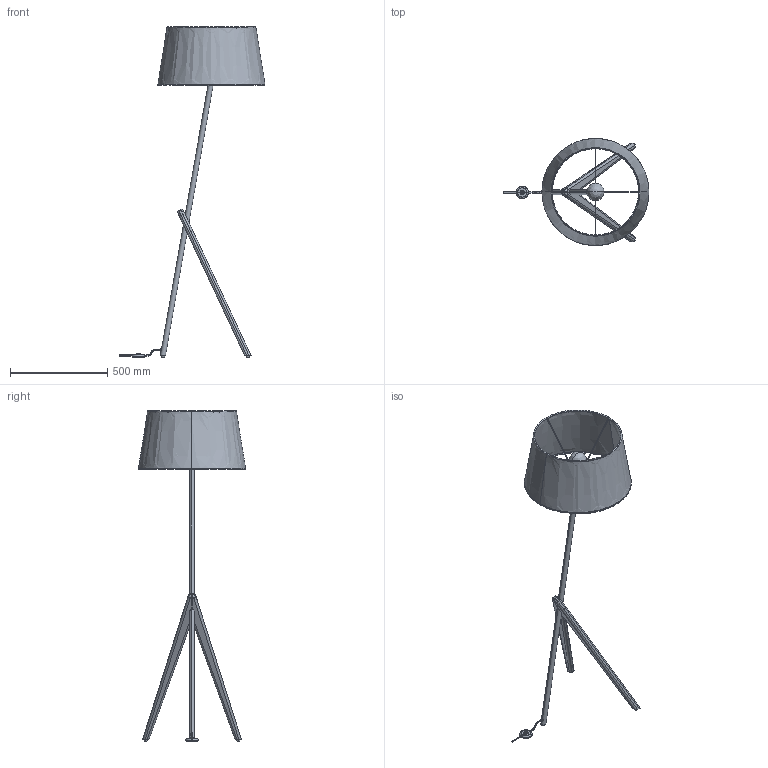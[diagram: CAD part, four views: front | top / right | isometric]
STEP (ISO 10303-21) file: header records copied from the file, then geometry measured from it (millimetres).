
FILE_DESCRIPTION(/* description */ (''),/* implementation_level */ '2;1');
FILE_NAME(/* name */ '20056.step',/* time_stamp */ '2024-06-14T08:41:54+02:00',/* author */ ('RenataManzini'),/* organization */ (''),/* preprocessor_version */ 'ST-DEVELOPER v20',/* originating_system */ 'AutoCAD Mechanical',/* authorisation */ '');
FILE_SCHEMA (('AUTOMOTIVE_DESIGN { 1 0 10303 214 3 1 1 }'));
Length unit declared in the file: millimetre
Products named in the file (4): Product; treewood_pie - TREEWOOD-640980-_3D_; treewood_pie - treewood_dwg_Document_41_A2-640930-_3D_; treewood_pie - treewood_dwg_Document_41_A1-640927-_3D_
Assembly tree (3 placements, depth 3):
  Product
    treewood_pie - TREEWOOD-640980-_3D_
      treewood_pie - treewood_dwg_Document_41_A2-640930-_3D_
      treewood_pie - treewood_dwg_Document_41_A1-640927-_3D_
Bounding box: 752.17 x 551.77 x 1701.58 mm (x, y, z)
Volume: 2086957.8 mm3; surface area: 1415551.6 mm2
Topology: 6 solids, 128 shells, 260 faces, 957 edges, 830 vertices
Faces by surface type: cylinder 140, plane 66, torus 28, bspline 20, cone 6
Full cylindrical faces by diameter (mm): 7.083 x18
Entity records: 57141 total; most frequent: CARTESIAN_POINT 50040, ORIENTED_EDGE 1232, DIRECTION 978, EDGE_CURVE 952, VERTEX_POINT 825, B_SPLINE_CURVE_WITH_KNOTS 539, LINE 338, VECTOR 338
